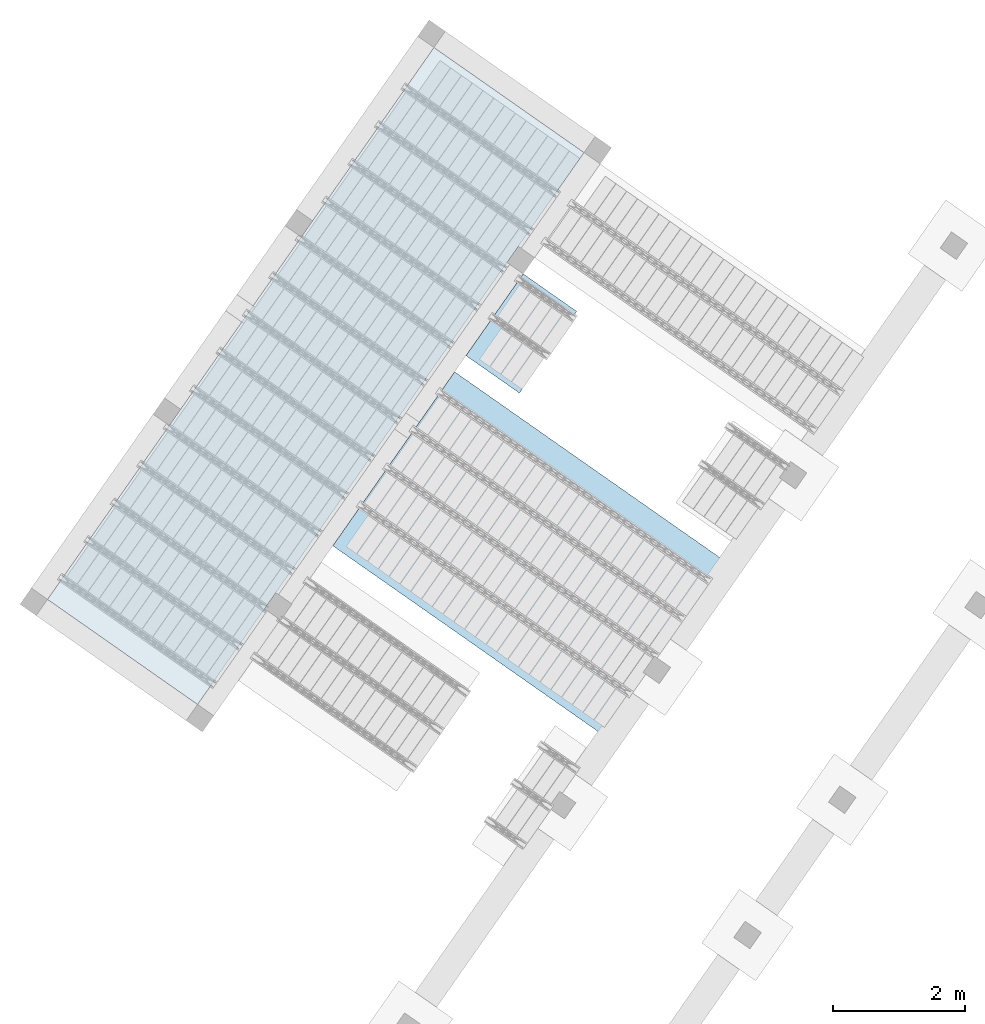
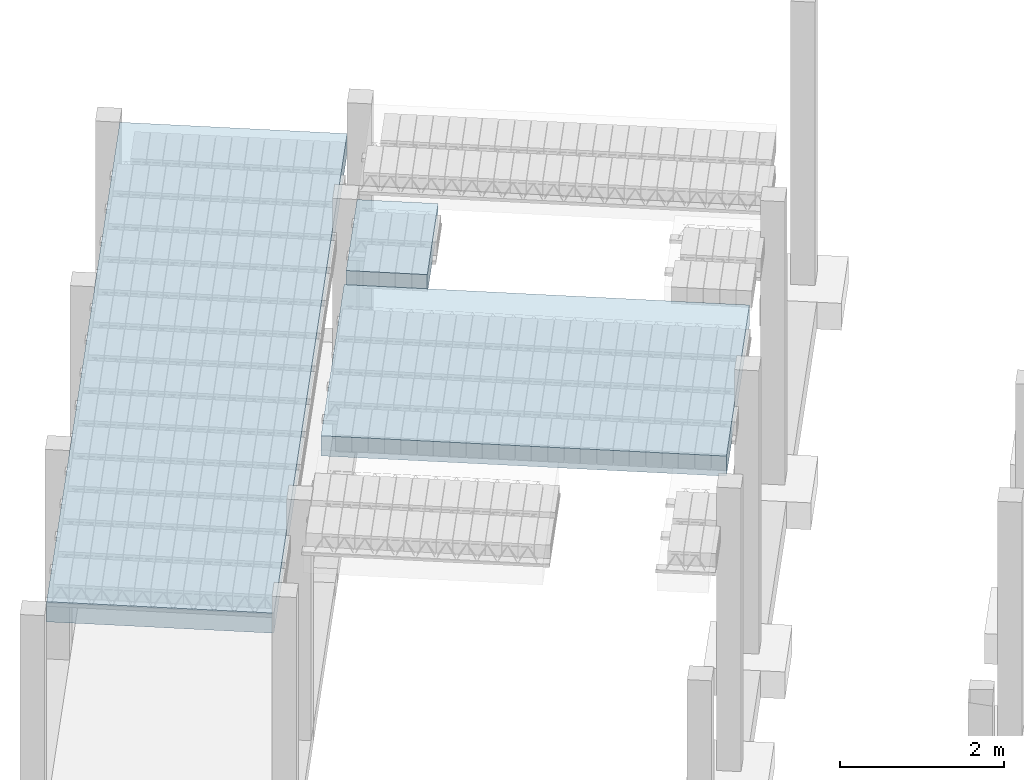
# One storey, part 51 of 80: 3 slabs.
"""IFC2X3 building model written with IfcOpenShell, lengths in metres."""

from ifc_helpers import new_model, entity, si_unit, converted_unit, derived_unit, direction, frame, frame_2d, origin, place, context, subcontext, project, spatial, polyline, rectangle, outline, extrude, type_object, element, save


model = new_model("IFC2X3")

# Units and contexts
model_context = context("Model", 3, precision=1e-05, world=origin(), true_north=direction((6.123031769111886e-17, 1.0)))
body_context = subcontext(model_context, "Body", "Model", "MODEL_VIEW")
ifc_project = project(units=[si_unit("LENGTHUNIT", "METRE"), si_unit("AREAUNIT", "SQUARE_METRE"), si_unit("VOLUMEUNIT", "CUBIC_METRE"), converted_unit("PLANEANGLEUNIT", "DEGREE", entity("IfcPlaneAngleMeasure", 0.017453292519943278), si_unit("PLANEANGLEUNIT", "RADIAN"), dimensions=[0, 0, 0, 0, 0, 0, 0]), si_unit("MASSUNIT", "GRAM", prefix="KILO"), derived_unit("MASSDENSITYUNIT", [(si_unit("MASSUNIT", "GRAM", prefix="KILO"), 1), (si_unit("LENGTHUNIT", "METRE"), -3)]), derived_unit("IONCONCENTRATIONUNIT", [(si_unit("MASSUNIT", "GRAM", prefix="KILO"), 1), (si_unit("LENGTHUNIT", "METRE"), -3)]), derived_unit("MOMENTOFINERTIAUNIT", [(si_unit("LENGTHUNIT", "METRE"), 4)]), si_unit("TIMEUNIT", "SECOND"), si_unit("FREQUENCYUNIT", "HERTZ"), si_unit("THERMODYNAMICTEMPERATUREUNIT", "DEGREE_CELSIUS"), derived_unit("THERMALTRANSMITTANCEUNIT", [(si_unit("MASSUNIT", "GRAM", prefix="KILO"), 1), (si_unit("THERMODYNAMICTEMPERATUREUNIT", "KELVIN"), -1), (si_unit("TIMEUNIT", "SECOND"), -3)]), derived_unit("THERMALCONDUCTANCEUNIT", [(si_unit("MASSUNIT", "GRAM", prefix="KILO"), 1), (si_unit("THERMODYNAMICTEMPERATUREUNIT", "KELVIN"), -1), (si_unit("TIMEUNIT", "SECOND"), -3), (si_unit("LENGTHUNIT", "METRE"), 1)]), derived_unit("VOLUMETRICFLOWRATEUNIT", [(si_unit("LENGTHUNIT", "METRE", prefix="DECI"), 3), (si_unit("TIMEUNIT", "SECOND"), -1)]), derived_unit("MASSFLOWRATEUNIT", [(si_unit("MASSUNIT", "GRAM", prefix="KILO"), 1), (si_unit("TIMEUNIT", "SECOND"), -1)]), derived_unit("ROTATIONALFREQUENCYUNIT", [(si_unit("TIMEUNIT", "SECOND"), -1)]), si_unit("ELECTRICCURRENTUNIT", "AMPERE"), si_unit("ELECTRICVOLTAGEUNIT", "VOLT"), si_unit("POWERUNIT", "WATT"), si_unit("FORCEUNIT", "NEWTON", prefix="KILO"), si_unit("ILLUMINANCEUNIT", "LUX"), si_unit("LUMINOUSFLUXUNIT", "LUMEN"), si_unit("LUMINOUSINTENSITYUNIT", "CANDELA"), si_unit("ENERGYUNIT", "JOULE"), derived_unit("USERDEFINED", [(si_unit("MASSUNIT", "GRAM", prefix="KILO"), -1), (si_unit("LENGTHUNIT", "METRE"), -2), (si_unit("TIMEUNIT", "SECOND"), 3), (si_unit("LUMINOUSFLUXUNIT", "LUMEN"), 1)]), derived_unit("USERDEFINED", [(si_unit("MASSUNIT", "GRAM", prefix="KILO"), 1), (si_unit("TIMEUNIT", "SECOND"), -3), (si_unit("LENGTHUNIT", "METRE"), 3), (si_unit("ELECTRICCURRENTUNIT", "AMPERE"), -2)]), derived_unit("SOUNDPOWERUNIT", [(si_unit("MASSUNIT", "GRAM", prefix="KILO"), 1), (si_unit("TIMEUNIT", "SECOND"), -3), (si_unit("LENGTHUNIT", "METRE"), 2)]), derived_unit("SOUNDPRESSUREUNIT", [(si_unit("MASSUNIT", "GRAM", prefix="KILO"), 1), (si_unit("LENGTHUNIT", "METRE"), -1), (si_unit("TIMEUNIT", "SECOND"), -2)]), derived_unit("LINEARVELOCITYUNIT", [(si_unit("LENGTHUNIT", "METRE"), 1), (si_unit("TIMEUNIT", "SECOND"), -1)]), si_unit("PRESSUREUNIT", "PASCAL"), derived_unit("USERDEFINED", [(si_unit("MASSUNIT", "GRAM", prefix="KILO"), 1), (si_unit("LENGTHUNIT", "METRE"), -2), (si_unit("TIMEUNIT", "SECOND"), -2)]), derived_unit("LINEARFORCEUNIT", [(si_unit("MASSUNIT", "GRAM", prefix="KILO"), 1), (si_unit("TIMEUNIT", "SECOND"), -2)]), derived_unit("PLANARFORCEUNIT", [(si_unit("MASSUNIT", "GRAM", prefix="KILO"), 1), (si_unit("LENGTHUNIT", "METRE"), -1), (si_unit("TIMEUNIT", "SECOND"), -2)]), derived_unit("SPECIFICHEATCAPACITYUNIT", [(si_unit("THERMODYNAMICTEMPERATUREUNIT", "KELVIN"), -1), (si_unit("LENGTHUNIT", "METRE"), 2), (si_unit("TIMEUNIT", "SECOND"), -2)]), derived_unit("HEATFLUXDENSITYUNIT", [(si_unit("MASSUNIT", "GRAM", prefix="KILO"), 1), (si_unit("TIMEUNIT", "SECOND"), -3)]), derived_unit("HEATINGVALUEUNIT", [(si_unit("LENGTHUNIT", "METRE"), 2), (si_unit("TIMEUNIT", "SECOND"), -2)]), derived_unit("VAPORPERMEABILITYUNIT", [(si_unit("LENGTHUNIT", "METRE"), -1), (si_unit("TIMEUNIT", "SECOND"), 1)]), derived_unit("DYNAMICVISCOSITYUNIT", [(si_unit("MASSUNIT", "GRAM", prefix="KILO"), 1), (si_unit("TIMEUNIT", "SECOND"), -1), (si_unit("LENGTHUNIT", "METRE"), -1)]), derived_unit("THERMALEXPANSIONCOEFFICIENTUNIT", [(si_unit("THERMODYNAMICTEMPERATUREUNIT", "KELVIN"), -1)]), derived_unit("MODULUSOFELASTICITYUNIT", [(si_unit("MASSUNIT", "GRAM", prefix="KILO"), 1), (si_unit("LENGTHUNIT", "METRE"), -1), (si_unit("TIMEUNIT", "SECOND"), -2)]), derived_unit("ISOTHERMALMOISTURECAPACITYUNIT", [(si_unit("MASSUNIT", "GRAM", prefix="KILO"), -1), (si_unit("LENGTHUNIT", "METRE"), 3)]), derived_unit("MOISTUREDIFFUSIVITYUNIT", [(si_unit("TIMEUNIT", "SECOND"), -1), (si_unit("LENGTHUNIT", "METRE"), 2)]), derived_unit("MASSPERLENGTHUNIT", [(si_unit("MASSUNIT", "GRAM", prefix="KILO"), 1), (si_unit("LENGTHUNIT", "METRE"), -1)]), derived_unit("THERMALRESISTANCEUNIT", [(si_unit("MASSUNIT", "GRAM", prefix="KILO"), -1), (si_unit("TIMEUNIT", "SECOND"), 3), (si_unit("THERMODYNAMICTEMPERATUREUNIT", "KELVIN"), 1)]), derived_unit("ACCELERATIONUNIT", [(si_unit("LENGTHUNIT", "METRE"), 1), (si_unit("TIMEUNIT", "SECOND"), -2)]), derived_unit("ANGULARVELOCITYUNIT", [(si_unit("TIMEUNIT", "SECOND"), -1), (si_unit("PLANEANGLEUNIT", "RADIAN"), 1)]), derived_unit("LINEARSTIFFNESSUNIT", [(si_unit("MASSUNIT", "GRAM", prefix="KILO"), 1), (si_unit("TIMEUNIT", "SECOND"), -2)]), derived_unit("WARPINGCONSTANTUNIT", [(si_unit("LENGTHUNIT", "METRE"), 6)]), derived_unit("LINEARMOMENTUNIT", [(si_unit("MASSUNIT", "GRAM", prefix="KILO"), 1), (si_unit("LENGTHUNIT", "METRE"), 1), (si_unit("TIMEUNIT", "SECOND"), -2)]), derived_unit("TORQUEUNIT", [(si_unit("MASSUNIT", "GRAM", prefix="KILO"), 1), (si_unit("LENGTHUNIT", "METRE"), 2), (si_unit("TIMEUNIT", "SECOND"), -2)])], contexts=[model_context])

# Site, building, storey
site_placement = place(None, origin())
site = spatial("IfcSite", under=ifc_project, at=site_placement, Name="Default", CompositionType="ELEMENT")
building_placement = place(site_placement, origin())
building = spatial("IfcBuilding", under=site, at=building_placement, CompositionType="ELEMENT")
storey_placement = place(building_placement, frame((0.0, 0.0, 95.94)))
storey = spatial("IfcBuildingStorey", under=building, at=storey_placement, Name="PB", CompositionType="ELEMENT", Elevation=95.94)

# Slabs
slab_type = type_object("IfcSlabType", Name="Forma directa:DirectShapeType 1092", PredefinedType="FLOOR")
slab_1_placement = place(storey_placement, origin())
element("IfcSlab", 1, at=slab_1_placement, inside=storey, type_object=slab_type, Name="Forma directa:DirectShapeType 1092", ObjectType="Forma directa:DirectShapeType 1092", PredefinedType="FLOOR", context=body_context, shape_type="SweptSolid", body=[
    extrude(outline(polyline([(-1.5958878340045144, -1.3922859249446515), (1.600188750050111, -1.392285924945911), (1.9001887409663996, -1.3920980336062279), (5.127167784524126, -1.392285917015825), (5.127023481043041, 1.3925130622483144), (3.352855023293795, 1.392423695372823), (3.052855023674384, 1.3924085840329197), (-3.0721449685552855, 1.3921000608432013), (-3.3721449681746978, 1.392084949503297), (-5.1121767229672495, 1.3919973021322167), (-5.112036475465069, -1.3922859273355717), (-1.8958878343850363, -1.3922859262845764), (-1.5958878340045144, -1.3922859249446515)])), frame((2.7183542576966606, 5.771811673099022, 2.82), z_axis=(0.0, 0.0, 1.0), x_axis=(-0.5736176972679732, -0.8191231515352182, 0.0)), (0.0, 0.0, 1.0), 0.30000000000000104),
])
slab_2_placement = place(storey_placement, origin())
element("IfcSlab", 2, at=slab_2_placement, inside=storey, type_object=slab_type, Name="Forma directa:DirectShapeType 1092", ObjectType="Forma directa:DirectShapeType 1092", PredefinedType="FLOOR", context=body_context, shape_type="SweptSolid", body=[
    extrude(rectangle(XDim=3.2274999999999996, YDim=4.965554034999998, at=frame_2d((0.1351785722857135, -0.8929302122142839), x_axis=(1.0, 0.0))), frame((6.741324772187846, 2.681486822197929, 3.279999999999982), z_axis=(0.0, 0.0, 1.0), x_axis=(-0.5735764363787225, -0.8191520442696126, 0.0)), (0.0, 0.0, 1.0), 0.3000000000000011),
])
slab_3_placement = place(storey_placement, origin())
element("IfcSlab", 3, at=slab_3_placement, inside=storey, type_object=slab_type, Name="Forma directa:DirectShapeType 1092", ObjectType="Forma directa:DirectShapeType 1092", PredefinedType="FLOOR", context=body_context, shape_type="SweptSolid", body=[
    extrude(rectangle(XDim=1.517468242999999, YDim=0.9927344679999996, at=frame_2d((-1.1657341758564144e-15, -1.6653345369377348e-16), x_axis=(1.0, 0.0))), frame((5.83804620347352, 6.411447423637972, 3.2799999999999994), z_axis=(0.0, 0.0, 1.0), x_axis=(0.5735764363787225, 0.8191520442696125, 0.0)), (0.0, 0.0, 1.0), 0.3000000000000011),
])

save(model, "model.ifc")
